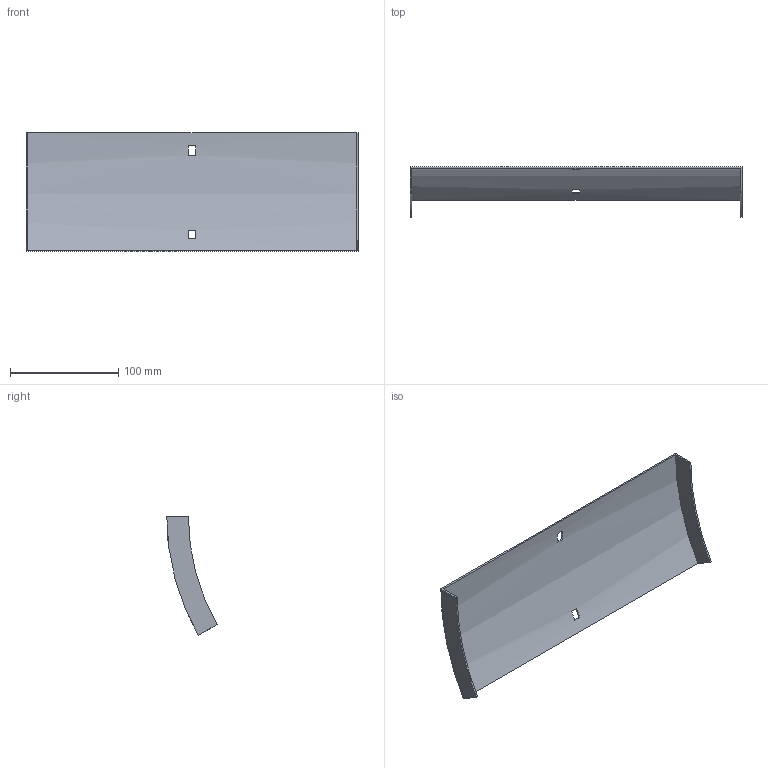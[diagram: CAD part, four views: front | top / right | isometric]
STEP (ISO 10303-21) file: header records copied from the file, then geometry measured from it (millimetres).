
FILE_DESCRIPTION (( 'STEP AP214' ), '1' );
FILE_NAME ('35N1J300.step', '2025-02-21T09:11:29', ( '' ), ( '' ), 'SwSTEP 2.0', 'SolidWorks 2023', '' );
FILE_SCHEMA (( 'AUTOMOTIVE_DESIGN' ));
Length unit declared in the file: millimetre
Products named in the file (1): 35N1J300
Bounding box: 307 x 46.66 x 109.5 mm (x, y, z)
Volume: 58499.5 mm3; surface area: 79438.4 mm2
Topology: 1 solids, 1 shells, 18 faces, 48 edges, 32 vertices
Faces by surface type: plane 14, cylinder 4
Entity records: 599 total; most frequent: DIRECTION 102, CARTESIAN_POINT 99, ORIENTED_EDGE 96, EDGE_CURVE 48, AXIS2_PLACEMENT_3D 35, LINE 32, VERTEX_POINT 32, VECTOR 32
